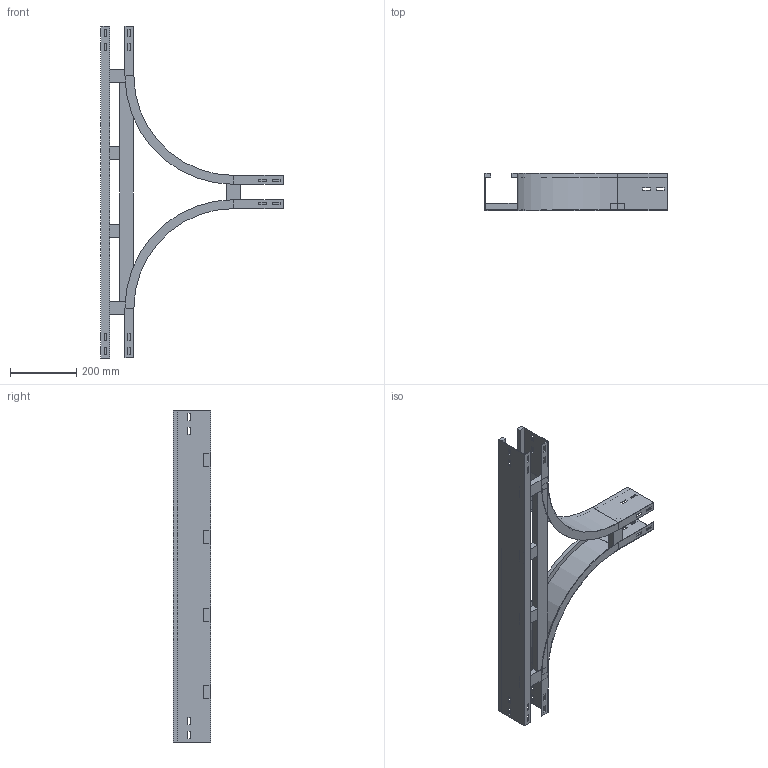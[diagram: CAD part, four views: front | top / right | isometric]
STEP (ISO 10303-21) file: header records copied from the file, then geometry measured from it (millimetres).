
FILE_DESCRIPTION (( 'STEP AP214' ), '1' );
FILE_NAME ('A2_15B3J100.step', '2025-02-21T15:51:17', ( '' ), ( '' ), 'SwSTEP 2.0', 'SolidWorks 2023', '' );
FILE_SCHEMA (( 'AUTOMOTIVE_DESIGN' ));
Length unit declared in the file: millimetre
Products named in the file (6): A2_LONGH.INTERNO 90°_H112.5_R300; A2_LONGH.RETT_H112.5_R300+100; A2_15B3J100; A2_TRAVERSINO_LONG._R300+100; TRAVERSINO_INTERMEDIO_R300+100; TRAVERSINO_100
Assembly tree (9 placements, depth 2):
  A2_15B3J100
    A2_LONGH.INTERNO 90°_H112.5_R300  x2
    A2_LONGH.RETT_H112.5_R300+100
    TRAVERSINO_100  x3
    A2_TRAVERSINO_LONG._R300+100
    TRAVERSINO_INTERMEDIO_R300+100  x2
Bounding box: 550 x 112.5 x 1000 mm (x, y, z)
Volume: 2046346.5 mm3; surface area: 931465.7 mm2
Topology: 9 solids, 9 shells, 194 faces, 496 edges, 320 vertices
Faces by surface type: plane 186, cylinder 8
Entity records: 3815 total; most frequent: CARTESIAN_POINT 638, ORIENTED_EDGE 616, DIRECTION 576, EDGE_CURVE 308, VECTOR 300, LINE 300, VERTEX_POINT 200, EDGE_LOOP 150
